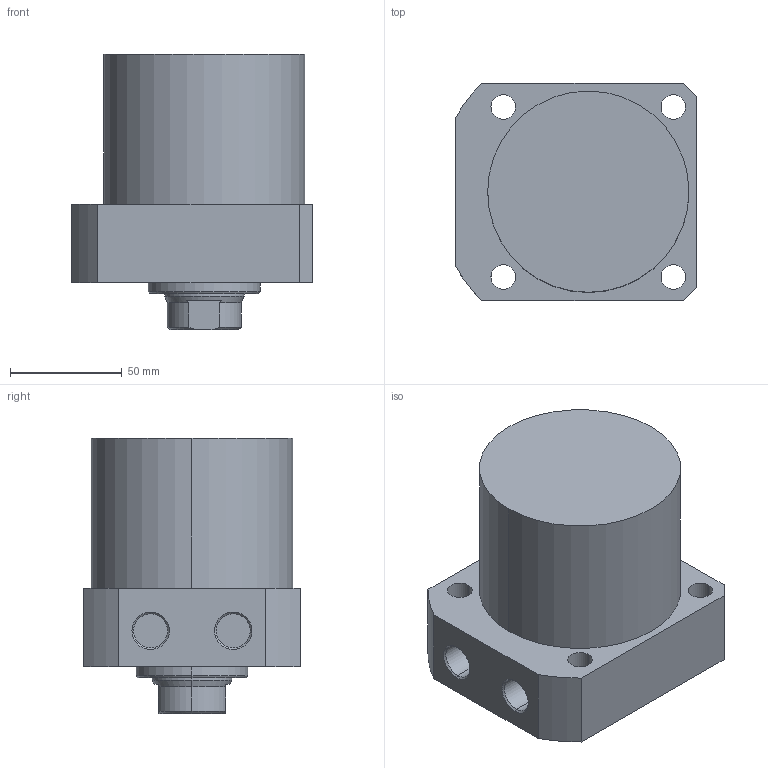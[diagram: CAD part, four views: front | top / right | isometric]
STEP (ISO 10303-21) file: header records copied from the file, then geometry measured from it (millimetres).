
FILE_DESCRIPTION (( 'STEP AP203' ), '1' );
FILE_NAME ('CLLR-090CA-045.STEP', '2019-12-19T02:17:04', ( '' ), ( '' ), 'SwSTEP 2.0', 'SolidWorks 2015', '' );
FILE_SCHEMA (( 'CONFIG_CONTROL_DESIGN' ));
Length unit declared in the file: millimetre
Products named in the file (1): CLLR-090CA-045
Bounding box: 108 x 97 x 123 mm (x, y, z)
Volume: 776498.7 mm3; surface area: 64006.4 mm2
Topology: 1 solids, 1 shells, 63 faces, 149 edges, 94 vertices
Faces by surface type: cylinder 29, plane 19, cone 15
Entity records: 1927 total; most frequent: DIRECTION 340, CARTESIAN_POINT 337, ORIENTED_EDGE 294, EDGE_CURVE 147, AXIS2_PLACEMENT_3D 137, VERTEX_POINT 94, EDGE_LOOP 79, CIRCLE 73
